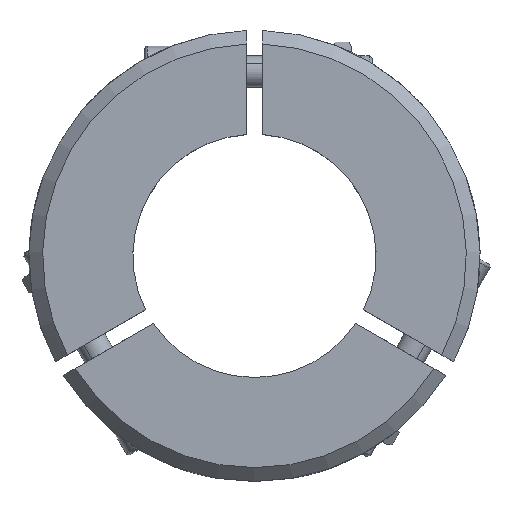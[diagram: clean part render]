
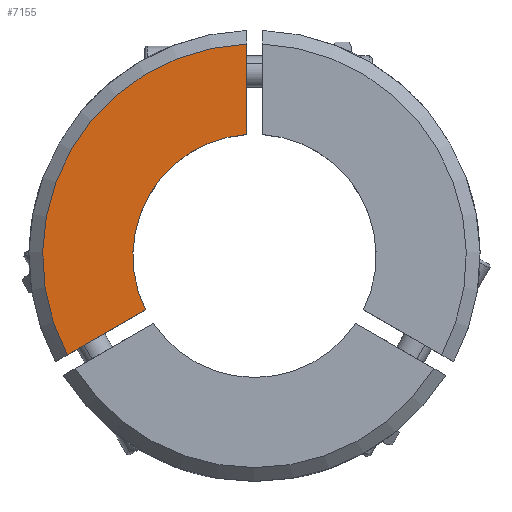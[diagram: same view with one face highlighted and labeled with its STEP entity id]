
A CAD part, top view. The second image highlights one B-rep face of the part: STEP entity #7155.
In plain terms, the highlighted planar face has unit normal (0, 0, 1).
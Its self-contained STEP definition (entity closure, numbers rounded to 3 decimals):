
#6660=CARTESIAN_POINT('',(-2.,53.963,14.));
#6661=VERTEX_POINT('',#6660);
#6686=CARTESIAN_POINT('',(-47.733,-25.249,14.));
#6687=VERTEX_POINT('',#6686);
#6701=CARTESIAN_POINT('',(0.0,0.0,14.));
#6702=DIRECTION('',(0.0,0.0,-1.));
#6703=DIRECTION('',(-0.035,0.999,0.0));
#6704=AXIS2_PLACEMENT_3D('',#6701,#6702,#6703);
#6705=CIRCLE('',#6704,54.);
#6706=EDGE_CURVE('',#6687,#6661,#6705,.T.);
#6824=CARTESIAN_POINT('',(-27.791,-13.736,14.));
#6825=VERTEX_POINT('',#6824);
#6832=CARTESIAN_POINT('',(-27.791,-13.736,14.));
#6833=DIRECTION('',(-0.866,-0.5,0.0));
#6834=VECTOR('',#6833,23.028);
#6835=LINE('',#6832,#6834);
#6836=EDGE_CURVE('',#6825,#6687,#6835,.T.);
#7054=CARTESIAN_POINT('',(-2.,30.935,14.));
#7055=VERTEX_POINT('',#7054);
#7062=CARTESIAN_POINT('',(0.0,0.0,14.));
#7063=DIRECTION('',(0.0,0.0,1.0));
#7064=DIRECTION('',(-0.065,0.998,0.0));
#7065=AXIS2_PLACEMENT_3D('',#7062,#7063,#7064);
#7066=CIRCLE('',#7065,31.);
#7067=EDGE_CURVE('',#7055,#6825,#7066,.T.);
#7121=CARTESIAN_POINT('',(-2.,53.963,14.));
#7122=DIRECTION('',(0.0,-1.0,0.0));
#7123=VECTOR('',#7122,23.028);
#7124=LINE('',#7121,#7123);
#7125=EDGE_CURVE('',#6661,#7055,#7124,.T.);
#7144=CARTESIAN_POINT('',(-30.866,17.821,14.));
#7145=DIRECTION('',(0.0,0.0,1.0));
#7146=DIRECTION('',(1.0,0.0,0.0));
#7147=AXIS2_PLACEMENT_3D('',#7144,#7145,#7146);
#7148=PLANE('',#7147);
#7149=ORIENTED_EDGE('',*,*,#6706,.F.);
#7150=ORIENTED_EDGE('',*,*,#6836,.F.);
#7151=ORIENTED_EDGE('',*,*,#7067,.F.);
#7152=ORIENTED_EDGE('',*,*,#7125,.F.);
#7153=EDGE_LOOP('',(#7149,#7150,#7151,#7152));
#7154=FACE_OUTER_BOUND('',#7153,.T.);
#7155=ADVANCED_FACE('',(#7154),#7148,.T.);
